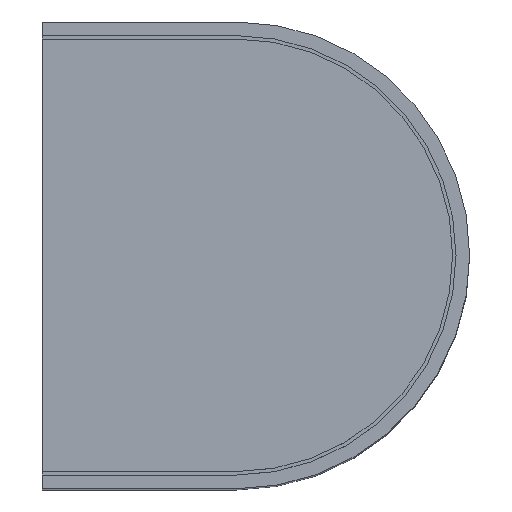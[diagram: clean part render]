
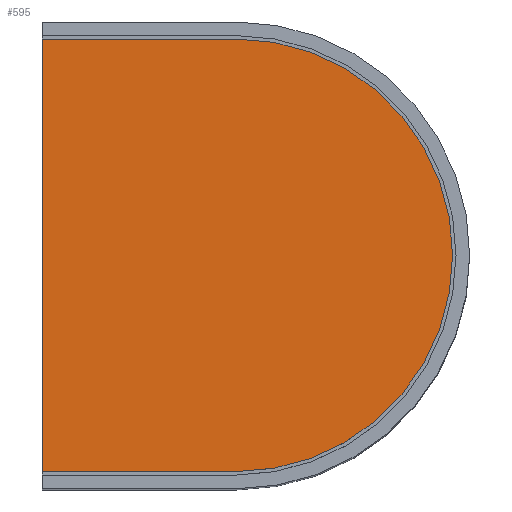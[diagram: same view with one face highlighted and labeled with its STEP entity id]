
A CAD part, top view. The second image highlights one B-rep face of the part: STEP entity #595.
In plain terms, the highlighted planar face has unit normal (0, 0, 1).
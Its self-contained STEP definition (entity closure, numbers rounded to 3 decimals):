
#23 = VERTEX_POINT ( 'NONE', #198 ) ;
#26 = EDGE_CURVE ( 'NONE', #23, #155, #551, .T. ) ;
#45 = EDGE_CURVE ( 'NONE', #236, #519, #270, .T. ) ;
#68 = CARTESIAN_POINT ( 'NONE',  ( -125., -63.25, 116.25 ) ) ;
#84 = AXIS2_PLACEMENT_3D ( 'NONE', #266, #677, #681 ) ;
#91 = DIRECTION ( 'NONE',  ( 0., -1., 0. ) ) ;
#112 = VECTOR ( 'NONE', #254, 1000. ) ;
#155 = VERTEX_POINT ( 'NONE', #566 ) ;
#185 = ORIENTED_EDGE ( 'NONE', *, *, #26, .T. ) ;
#192 = EDGE_LOOP ( 'NONE', ( #185, #428, #653, #553 ) ) ;
#198 = CARTESIAN_POINT ( 'NONE',  ( -68.25, 63.25, 116.25 ) ) ;
#236 = VERTEX_POINT ( 'NONE', #68 ) ;
#254 = DIRECTION ( 'NONE',  ( -1., 0., 0. ) ) ;
#266 = CARTESIAN_POINT ( 'NONE',  ( -68.25, 0., 116.25 ) ) ;
#270 = LINE ( 'NONE', #485, #407 ) ;
#301 = FACE_OUTER_BOUND ( 'NONE', #192, .T. ) ;
#319 = VECTOR ( 'NONE', #91, 1000. ) ;
#350 = AXIS2_PLACEMENT_3D ( 'NONE', #518, #392, #639 ) ;
#392 = DIRECTION ( 'NONE',  ( 0., 0., 1. ) ) ;
#407 = VECTOR ( 'NONE', #722, 1000. ) ;
#428 = ORIENTED_EDGE ( 'NONE', *, *, #439, .T. ) ;
#432 = LINE ( 'NONE', #496, #319 ) ;
#439 = EDGE_CURVE ( 'NONE', #155, #236, #432, .T. ) ;
#485 = CARTESIAN_POINT ( 'NONE',  ( -125., -63.25, 116.25 ) ) ;
#493 = CARTESIAN_POINT ( 'NONE',  ( -68.25, 63.25, 116.25 ) ) ;
#496 = CARTESIAN_POINT ( 'NONE',  ( -125., 63.25, 116.25 ) ) ;
#518 = CARTESIAN_POINT ( 'NONE',  ( -68.25, 0., 116.25 ) ) ;
#519 = VERTEX_POINT ( 'NONE', #565 ) ;
#528 = CIRCLE ( 'NONE', #350, 63.25 ) ;
#551 = LINE ( 'NONE', #493, #112 ) ;
#553 = ORIENTED_EDGE ( 'NONE', *, *, #662, .T. ) ;
#565 = CARTESIAN_POINT ( 'NONE',  ( -68.25, -63.25, 116.25 ) ) ;
#566 = CARTESIAN_POINT ( 'NONE',  ( -125., 63.25, 116.25 ) ) ;
#595 = ADVANCED_FACE ( 'NONE', ( #301 ), #685, .T. ) ;
#639 = DIRECTION ( 'NONE',  ( 1., 0., 0. ) ) ;
#653 = ORIENTED_EDGE ( 'NONE', *, *, #45, .T. ) ;
#662 = EDGE_CURVE ( 'NONE', #519, #23, #528, .T. ) ;
#677 = DIRECTION ( 'NONE',  ( 0., 0., 1. ) ) ;
#681 = DIRECTION ( 'NONE',  ( 1., 0., 0. ) ) ;
#685 = PLANE ( 'NONE',  #84 ) ;
#722 = DIRECTION ( 'NONE',  ( 1., 0., 0. ) ) ;
